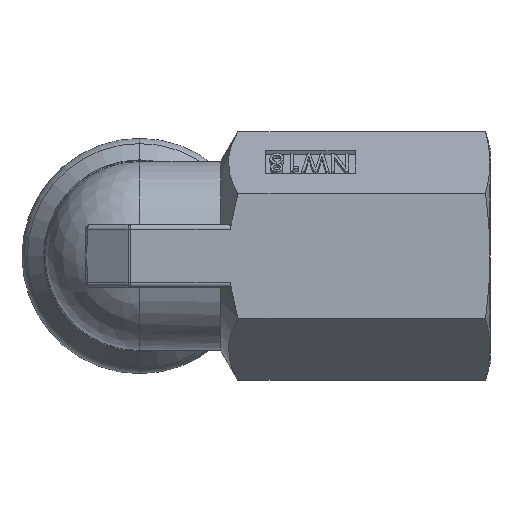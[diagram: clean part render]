
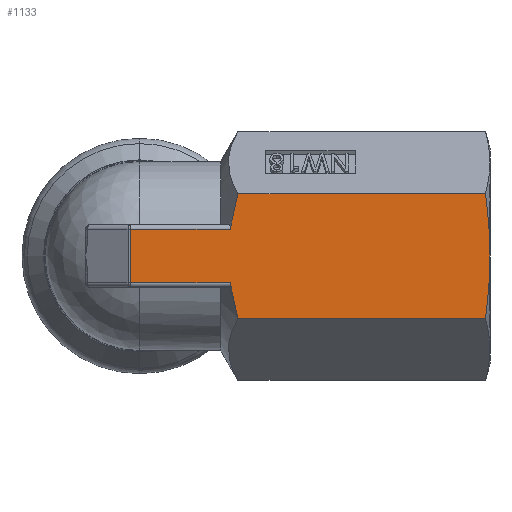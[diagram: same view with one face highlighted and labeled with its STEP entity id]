
A CAD part, left-side view. The second image highlights one B-rep face of the part: STEP entity #1133.
In plain terms, the highlighted planar face has unit normal (-1, 0, 0).
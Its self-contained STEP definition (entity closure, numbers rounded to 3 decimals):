
#22 = B_SPLINE_CURVE_WITH_KNOTS ( 'NONE', 3,
 ( #3230, #4625, #3269, #3251 ),
 .UNSPECIFIED., .F., .F.,
 ( 4, 4 ),
 ( 0.023, 0.027 ),
 .UNSPECIFIED. ) ;
#38 = CARTESIAN_POINT ( 'NONE',  ( -12., 1.168, 3. ) ) ;
#77 = DIRECTION ( 'NONE',  ( 0., 1., 0. ) ) ;
#101 = VERTEX_POINT ( 'NONE', #4086 ) ;
#148 = VECTOR ( 'NONE', #4554, 1000. ) ;
#200 = CARTESIAN_POINT ( 'NONE',  ( -12., -39., -6.928 ) ) ;
#262 = CARTESIAN_POINT ( 'NONE',  ( -12., -39., 1.157 ) ) ;
#364 = VECTOR ( 'NONE', #77, 1000. ) ;
#455 = ORIENTED_EDGE ( 'NONE', *, *, #2669, .F. ) ;
#559 = CARTESIAN_POINT ( 'NONE',  ( -12., 1.011, 3. ) ) ;
#703 = CARTESIAN_POINT ( 'NONE',  ( -12., -38.657, 5.775 ) ) ;
#766 = CARTESIAN_POINT ( 'NONE',  ( -12., -10.938, -6.928 ) ) ;
#882 = VERTEX_POINT ( 'NONE', #4579 ) ;
#932 = CARTESIAN_POINT ( 'NONE',  ( -12., -38.503, 6.928 ) ) ;
#962 = VERTEX_POINT ( 'NONE', #932 ) ;
#1051 = PLANE ( 'NONE',  #5679 ) ;
#1085 = ORIENTED_EDGE ( 'NONE', *, *, #4191, .T. ) ;
#1110 = CARTESIAN_POINT ( 'NONE',  ( -12., -39., 0. ) ) ;
#1133 = ADVANCED_FACE ( 'NONE', ( #4501 ), #1051, .F. ) ;
#1170 = ORIENTED_EDGE ( 'NONE', *, *, #4563, .T. ) ;
#1340 = EDGE_CURVE ( 'NONE', #962, #3300, #3436, .T. ) ;
#1430 = VERTEX_POINT ( 'NONE', #766 ) ;
#1505 = DIRECTION ( 'NONE',  ( 0., 0., -1. ) ) ;
#1554 = DIRECTION ( 'NONE',  ( 0., 1., 0. ) ) ;
#1772 = CARTESIAN_POINT ( 'NONE',  ( -12., -10.293, -4.319 ) ) ;
#1849 = CARTESIAN_POINT ( 'NONE',  ( -12., -39., -1.153 ) ) ;
#1893 = LINE ( 'NONE', #2329, #3563 ) ;
#1954 = EDGE_CURVE ( 'NONE', #882, #3218, #1893, .T. ) ;
#1993 = VERTEX_POINT ( 'NONE', #559 ) ;
#2057 = LINE ( 'NONE', #200, #2205 ) ;
#2205 = VECTOR ( 'NONE', #1554, 1000. ) ;
#2216 = CARTESIAN_POINT ( 'NONE',  ( -12., -10.172, -3.661 ) ) ;
#2284 = LINE ( 'NONE', #5635, #4021 ) ;
#2329 = CARTESIAN_POINT ( 'NONE',  ( -12., -39., -3. ) ) ;
#2332 = CARTESIAN_POINT ( 'NONE',  ( -12., -39., 0. ) ) ;
#2669 = EDGE_CURVE ( 'NONE', #1430, #3218, #5112, .T. ) ;
#2700 = CARTESIAN_POINT ( 'NONE',  ( -12., -10.079, -3. ) ) ;
#2964 = ORIENTED_EDGE ( 'NONE', *, *, #1340, .F. ) ;
#2988 = CARTESIAN_POINT ( 'NONE',  ( -12., -38.954, 2.313 ) ) ;
#3218 = VERTEX_POINT ( 'NONE', #4750 ) ;
#3230 = CARTESIAN_POINT ( 'NONE',  ( -12., -10.079, 3. ) ) ;
#3251 = CARTESIAN_POINT ( 'NONE',  ( -12., -10.938, 6.928 ) ) ;
#3269 = CARTESIAN_POINT ( 'NONE',  ( -12., -10.566, 5.641 ) ) ;
#3300 = VERTEX_POINT ( 'NONE', #1110 ) ;
#3390 = VERTEX_POINT ( 'NONE', #4407 ) ;
#3436 = B_SPLINE_CURVE_WITH_KNOTS ( 'NONE', 3,
 ( #5683, #703, #3907, #2988, #262, #3462 ),
 .UNSPECIFIED., .F., .F.,
 ( 4, 2, 4 ),
 ( 0.03, 0.034, 0.037 ),
 .UNSPECIFIED. ) ;
#3447 = ORIENTED_EDGE ( 'NONE', *, *, #5232, .T. ) ;
#3449 = VERTEX_POINT ( 'NONE', #5398 ) ;
#3462 = CARTESIAN_POINT ( 'NONE',  ( -12., -39., 0. ) ) ;
#3563 = VECTOR ( 'NONE', #4696, 1000. ) ;
#3720 = CARTESIAN_POINT ( 'NONE',  ( -12., -38.503, -6.928 ) ) ;
#3848 = EDGE_CURVE ( 'NONE', #3390, #1430, #2057, .T. ) ;
#3907 = CARTESIAN_POINT ( 'NONE',  ( -12., -38.783, 4.622 ) ) ;
#4021 = VECTOR ( 'NONE', #4367, 1000. ) ;
#4032 = EDGE_LOOP ( 'NONE', ( #4594, #1085, #3447, #5017, #455, #4275, #4840, #2964, #1170 ) ) ;
#4060 = CARTESIAN_POINT ( 'NONE',  ( -12., -10.752, -6.285 ) ) ;
#4080 = CARTESIAN_POINT ( 'NONE',  ( -12., -10.938, -6.928 ) ) ;
#4086 = CARTESIAN_POINT ( 'NONE',  ( -12., -10.938, 6.928 ) ) ;
#4120 = EDGE_CURVE ( 'NONE', #3300, #3390, #5691, .T. ) ;
#4140 = EDGE_CURVE ( 'NONE', #3449, #101, #22, .T. ) ;
#4191 = EDGE_CURVE ( 'NONE', #3449, #1993, #5207, .T. ) ;
#4275 = ORIENTED_EDGE ( 'NONE', *, *, #3848, .F. ) ;
#4367 = DIRECTION ( 'NONE',  ( 0., 1., 0. ) ) ;
#4407 = CARTESIAN_POINT ( 'NONE',  ( -12., -38.503, -6.928 ) ) ;
#4501 = FACE_OUTER_BOUND ( 'NONE', #4032, .T. ) ;
#4502 = CARTESIAN_POINT ( 'NONE',  ( -12., -10.583, -5.632 ) ) ;
#4554 = DIRECTION ( 'NONE',  ( 0., 0., -1. ) ) ;
#4563 = EDGE_CURVE ( 'NONE', #962, #101, #2284, .T. ) ;
#4579 = CARTESIAN_POINT ( 'NONE',  ( -12., 1.011, -3. ) ) ;
#4594 = ORIENTED_EDGE ( 'NONE', *, *, #4140, .F. ) ;
#4625 = CARTESIAN_POINT ( 'NONE',  ( -12., -10.266, 4.336 ) ) ;
#4696 = DIRECTION ( 'NONE',  ( 0., -1., 0. ) ) ;
#4711 = CARTESIAN_POINT ( 'NONE',  ( -12., -39., 6.928 ) ) ;
#4750 = CARTESIAN_POINT ( 'NONE',  ( -12., -10.079, -3. ) ) ;
#4840 = ORIENTED_EDGE ( 'NONE', *, *, #4120, .F. ) ;
#5017 = ORIENTED_EDGE ( 'NONE', *, *, #1954, .T. ) ;
#5046 = CARTESIAN_POINT ( 'NONE',  ( -12., -38.955, -2.308 ) ) ;
#5112 = B_SPLINE_CURVE_WITH_KNOTS ( 'NONE', 3,
 ( #4080, #4060, #4502, #1772, #2216, #2700 ),
 .UNSPECIFIED., .F., .F.,
 ( 4, 2, 4 ),
 ( 0.013, 0.015, 0.017 ),
 .UNSPECIFIED. ) ;
#5161 = DIRECTION ( 'NONE',  ( 1., 0., 0. ) ) ;
#5207 = LINE ( 'NONE', #38, #364 ) ;
#5232 = EDGE_CURVE ( 'NONE', #1993, #882, #5787, .T. ) ;
#5398 = CARTESIAN_POINT ( 'NONE',  ( -12., -10.079, 3. ) ) ;
#5496 = CARTESIAN_POINT ( 'NONE',  ( -12., -38.783, -4.618 ) ) ;
#5520 = CARTESIAN_POINT ( 'NONE',  ( -12., -38.657, -5.777 ) ) ;
#5635 = CARTESIAN_POINT ( 'NONE',  ( -12., -39., 6.928 ) ) ;
#5679 = AXIS2_PLACEMENT_3D ( 'NONE', #4711, #5161, #1505 ) ;
#5683 = CARTESIAN_POINT ( 'NONE',  ( -12., -38.503, 6.928 ) ) ;
#5691 = B_SPLINE_CURVE_WITH_KNOTS ( 'NONE', 3,
 ( #2332, #1849, #5046, #5496, #5520, #3720 ),
 .UNSPECIFIED., .F., .F.,
 ( 4, 2, 4 ),
 ( 0.037, 0.041, 0.044 ),
 .UNSPECIFIED. ) ;
#5787 = LINE ( 'NONE', #5909, #148 ) ;
#5909 = CARTESIAN_POINT ( 'NONE',  ( -12., 1.011, -3.5 ) ) ;
